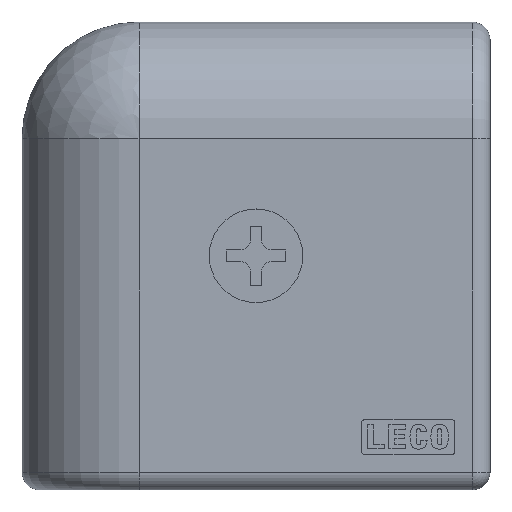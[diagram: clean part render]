
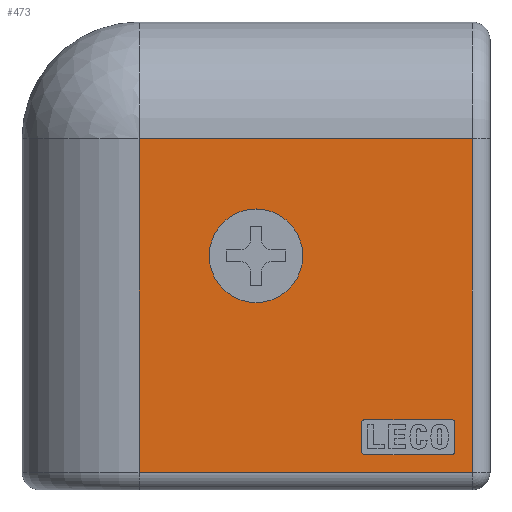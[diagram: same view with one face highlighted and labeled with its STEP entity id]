
A CAD part, top view. The second image highlights one B-rep face of the part: STEP entity #473.
In plain terms, the highlighted planar face has unit normal (0, 0, 1).
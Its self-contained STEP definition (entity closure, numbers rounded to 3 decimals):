
#473=ADVANCED_FACE('',(#1078,#1079,#1080),#1081,.T.);
#1078=FACE_BOUND('',#1821,.T.);
#1079=FACE_BOUND('',#1822,.T.);
#1080=FACE_OUTER_BOUND('',#1823,.T.);
#1081=PLANE('',#1824);
#1821=EDGE_LOOP('',(#3135));
#1822=EDGE_LOOP('',(#3136,#3137,#3138,#3139,#3140,#3141,#3142,#3143));
#1823=EDGE_LOOP('',(#3144,#3145,#3146,#3147));
#1824=AXIS2_PLACEMENT_3D('',#3148,#3149,#3150);
#3135=ORIENTED_EDGE('',*,*,#4877,.T.);
#3136=ORIENTED_EDGE('',*,*,#4878,.F.);
#3137=ORIENTED_EDGE('',*,*,#4879,.F.);
#3138=ORIENTED_EDGE('',*,*,#4880,.F.);
#3139=ORIENTED_EDGE('',*,*,#4881,.F.);
#3140=ORIENTED_EDGE('',*,*,#4882,.F.);
#3141=ORIENTED_EDGE('',*,*,#4502,.F.);
#3142=ORIENTED_EDGE('',*,*,#4883,.F.);
#3143=ORIENTED_EDGE('',*,*,#4722,.F.);
#3144=ORIENTED_EDGE('',*,*,#4884,.T.);
#3145=ORIENTED_EDGE('',*,*,#4885,.T.);
#3146=ORIENTED_EDGE('',*,*,#4577,.T.);
#3147=ORIENTED_EDGE('',*,*,#4886,.T.);
#3148=CARTESIAN_POINT('',(-40.0,40.0,10.0));
#3149=DIRECTION('',(0.0,0.0,1.0));
#3150=DIRECTION('',(0.0,-1.0,0.0));
#4502=EDGE_CURVE('',#5418,#5419,#5420,.T.);
#4577=EDGE_CURVE('',#5546,#5439,#5547,.T.);
#4722=EDGE_CURVE('',#5773,#5774,#5775,.T.);
#4877=EDGE_CURVE('',#5999,#5999,#6000,.T.);
#4878=EDGE_CURVE('',#6001,#5773,#6002,.T.);
#4879=EDGE_CURVE('',#6003,#6001,#6004,.T.);
#4880=EDGE_CURVE('',#6005,#6003,#6006,.T.);
#4881=EDGE_CURVE('',#6007,#6005,#6008,.T.);
#4882=EDGE_CURVE('',#5419,#6007,#6009,.T.);
#4883=EDGE_CURVE('',#5774,#5418,#6010,.T.);
#4884=EDGE_CURVE('',#5903,#6011,#6012,.T.);
#4885=EDGE_CURVE('',#6011,#5546,#6013,.T.);
#4886=EDGE_CURVE('',#5439,#5903,#6014,.T.);
#5418=VERTEX_POINT('',#6684);
#5419=VERTEX_POINT('',#6685);
#5420=CIRCLE('',#6686,0.3);
#5439=VERTEX_POINT('',#6709);
#5546=VERTEX_POINT('',#6847);
#5547=LINE('',#6848,#6849);
#5773=VERTEX_POINT('',#7143);
#5774=VERTEX_POINT('',#7144);
#5775=CIRCLE('',#7145,0.3);
#5903=VERTEX_POINT('',#7307);
#5999=VERTEX_POINT('',#7441);
#6000=CIRCLE('',#7442,4.0);
#6001=VERTEX_POINT('',#7443);
#6002=LINE('',#7444,#7445);
#6003=VERTEX_POINT('',#7446);
#6004=CIRCLE('',#7447,0.3);
#6005=VERTEX_POINT('',#7448);
#6006=LINE('',#7449,#7450);
#6007=VERTEX_POINT('',#7451);
#6008=CIRCLE('',#7452,0.3);
#6009=LINE('',#7453,#7454);
#6010=LINE('',#7455,#7456);
#6011=VERTEX_POINT('',#7457);
#6012=LINE('',#7458,#7459);
#6013=LINE('',#7460,#7461);
#6014=LINE('',#7462,#7463);
#6684=CARTESIAN_POINT('',(-3.,5.7,10.));
#6685=CARTESIAN_POINT('',(-3.3,6.,10.));
#6686=AXIS2_PLACEMENT_3D('',#8134,#8135,#8136);
#6709=CARTESIAN_POINT('',(-1.5,30.0,10.0));
#6847=CARTESIAN_POINT('',(-1.5,1.5,10.0));
#6848=CARTESIAN_POINT('',(-1.5,30.0,10.0));
#6849=VECTOR('',#8244,1.0);
#7143=CARTESIAN_POINT('',(-3.3,3.,10.));
#7144=CARTESIAN_POINT('',(-3.,3.3,10.));
#7145=AXIS2_PLACEMENT_3D('',#8448,#8449,#8450);
#7307=CARTESIAN_POINT('',(-30.,30.0,10.0));
#7441=CARTESIAN_POINT('',(-20.0,16.,10.0));
#7442=AXIS2_PLACEMENT_3D('',#8661,#8662,#8663);
#7443=CARTESIAN_POINT('',(-10.7,3.,10.));
#7444=CARTESIAN_POINT('',(-10.7,3.,10.));
#7445=VECTOR('',#8664,1.0);
#7446=CARTESIAN_POINT('',(-11.,3.3,10.));
#7447=AXIS2_PLACEMENT_3D('',#8665,#8666,#8667);
#7448=CARTESIAN_POINT('',(-11.,5.7,10.));
#7449=CARTESIAN_POINT('',(-11.,5.7,10.));
#7450=VECTOR('',#8668,1.0);
#7451=CARTESIAN_POINT('',(-10.7,6.0,10.));
#7452=AXIS2_PLACEMENT_3D('',#8669,#8670,#8671);
#7453=CARTESIAN_POINT('',(-3.3,6.,10.));
#7454=VECTOR('',#8672,1.0);
#7455=CARTESIAN_POINT('',(-3.,3.3,10.));
#7456=VECTOR('',#8673,1.0);
#7457=CARTESIAN_POINT('',(-30.0,1.5,10.0));
#7458=CARTESIAN_POINT('',(-30.0,0.,10.0));
#7459=VECTOR('',#8674,1.0);
#7460=CARTESIAN_POINT('',(0.,1.5,10.0));
#7461=VECTOR('',#8675,1.0);
#7462=CARTESIAN_POINT('',(-30.0,30.0,10.0));
#7463=VECTOR('',#8676,1.0);
#8134=CARTESIAN_POINT('',(-3.3,5.7,10.));
#8135=DIRECTION('',(0.0,0.0,1.0));
#8136=DIRECTION('',(1.0,0.0,0.0));
#8244=DIRECTION('',(0.0,1.0,0.0));
#8448=CARTESIAN_POINT('',(-3.3,3.3,10.));
#8449=DIRECTION('',(0.0,0.0,1.0));
#8450=DIRECTION('',(1.0,0.0,0.0));
#8661=CARTESIAN_POINT('',(-20.0,20.,10.0));
#8662=DIRECTION('',(0.0,0.0,-1.0));
#8663=DIRECTION('',(0.0,-1.0,0.0));
#8664=DIRECTION('',(1.0,0.,0.0));
#8665=CARTESIAN_POINT('',(-10.7,3.3,10.));
#8666=DIRECTION('',(0.0,0.0,1.0));
#8667=DIRECTION('',(1.0,0.0,0.0));
#8668=DIRECTION('',(0.0,-1.0,0.0));
#8669=CARTESIAN_POINT('',(-10.7,5.7,10.));
#8670=DIRECTION('',(0.0,0.0,1.0));
#8671=DIRECTION('',(1.0,0.0,0.0));
#8672=DIRECTION('',(-1.0,0.,0.0));
#8673=DIRECTION('',(0.0,1.0,0.0));
#8674=DIRECTION('',(0.0,-1.0,0.0));
#8675=DIRECTION('',(1.0,0.0,0.0));
#8676=DIRECTION('',(-1.0,0.0,0.0));
